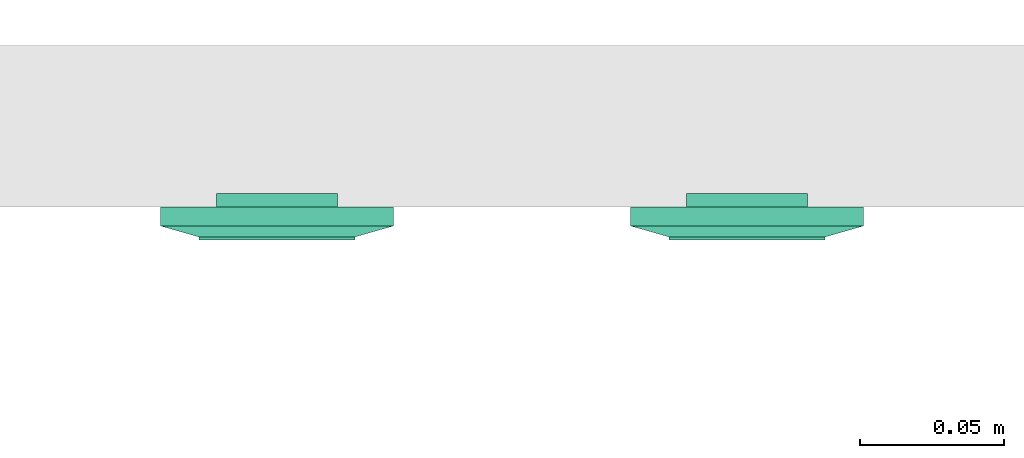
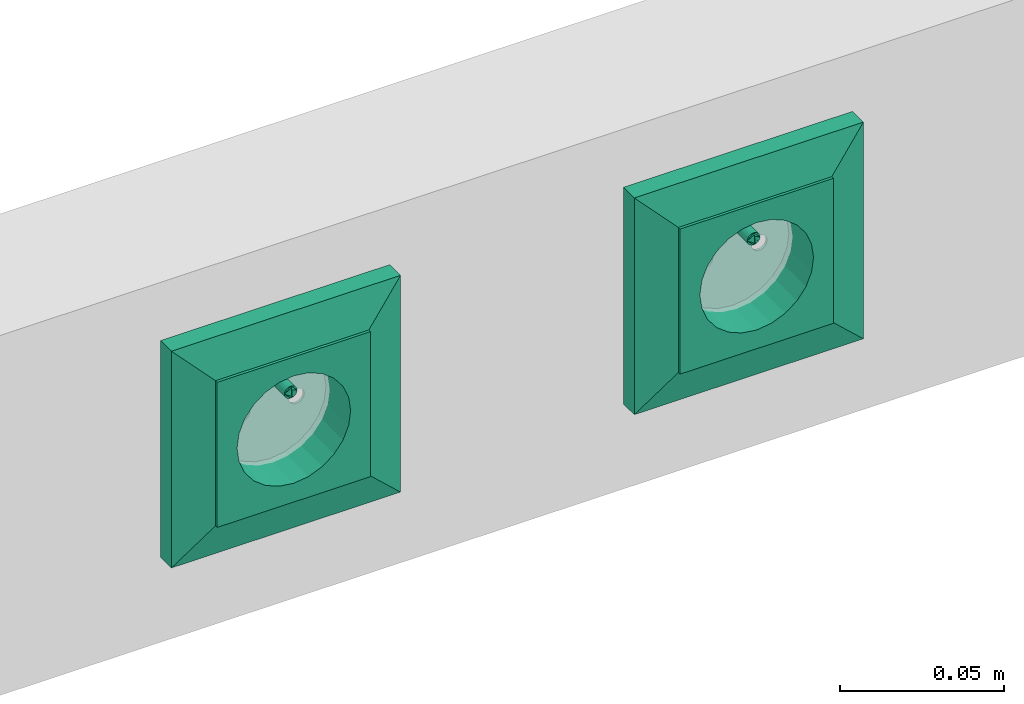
# One storey, part 79 of 166: 2 flow terminals.
"""IFC2X3 building model written with IfcOpenShell, lengths in metres."""

from ifc_helpers import new_model, entity, si_unit, converted_unit, derived_unit, direction, frame, origin, place, context, subcontext, project, spatial, face_set, surface_model, source, transform, mapped, type_object, type_shapes, element, save


model = new_model("IFC2X3")

# Units and contexts
model_context = context("Model", 3, precision=1e-05, world=origin(), true_north=direction((6.12303176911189e-17, 1.0)))
body_context = subcontext(model_context, "Body", "Model", "MODEL_VIEW")
ifc_project = project(units=[si_unit("LENGTHUNIT", "METRE"), si_unit("AREAUNIT", "SQUARE_METRE"), si_unit("VOLUMEUNIT", "CUBIC_METRE"), converted_unit("PLANEANGLEUNIT", "DEGREE", entity("IfcRatioMeasure", 0.0174532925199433), si_unit("PLANEANGLEUNIT", "RADIAN"), dimensions=[0, 0, 0, 0, 0, 0, 0]), si_unit("MASSUNIT", "GRAM", prefix="KILO"), derived_unit("MASSDENSITYUNIT", [(si_unit("MASSUNIT", "GRAM", prefix="KILO"), 1), (si_unit("LENGTHUNIT", "METRE"), -3)]), si_unit("TIMEUNIT", "SECOND"), si_unit("FREQUENCYUNIT", "HERTZ"), si_unit("THERMODYNAMICTEMPERATUREUNIT", "DEGREE_CELSIUS"), derived_unit("THERMALTRANSMITTANCEUNIT", [(si_unit("MASSUNIT", "GRAM", prefix="KILO"), 1), (si_unit("THERMODYNAMICTEMPERATUREUNIT", "KELVIN"), -1), (si_unit("TIMEUNIT", "SECOND"), -3)]), derived_unit("VOLUMETRICFLOWRATEUNIT", [(si_unit("LENGTHUNIT", "METRE"), 3), (si_unit("TIMEUNIT", "SECOND"), -1)]), si_unit("ELECTRICCURRENTUNIT", "AMPERE"), si_unit("ELECTRICVOLTAGEUNIT", "VOLT"), si_unit("POWERUNIT", "WATT"), si_unit("FORCEUNIT", "NEWTON"), si_unit("ILLUMINANCEUNIT", "LUX"), si_unit("LUMINOUSFLUXUNIT", "LUMEN"), si_unit("LUMINOUSINTENSITYUNIT", "CANDELA"), derived_unit("USERDEFINED", [(si_unit("MASSUNIT", "GRAM", prefix="KILO"), -1), (si_unit("LENGTHUNIT", "METRE"), -2), (si_unit("TIMEUNIT", "SECOND"), 3), (si_unit("LUMINOUSFLUXUNIT", "LUMEN"), 1)]), derived_unit("LINEARVELOCITYUNIT", [(si_unit("LENGTHUNIT", "METRE"), 1), (si_unit("TIMEUNIT", "SECOND"), -1)]), si_unit("PRESSUREUNIT", "PASCAL"), derived_unit("USERDEFINED", [(si_unit("LENGTHUNIT", "METRE"), -2), (si_unit("MASSUNIT", "GRAM", prefix="KILO"), 1), (si_unit("TIMEUNIT", "SECOND"), -2)])], contexts=[model_context])

# Site, building, storey
site_placement = place(None, origin())
site = spatial("IfcSite", under=ifc_project, at=site_placement, Name="Default", CompositionType="ELEMENT")
building_placement = place(site_placement, origin())
building = spatial("IfcBuilding", under=site, at=building_placement, CompositionType="ELEMENT")
storey_placement = place(building_placement, frame((0.0, 0.0, 4.27)))
storey = spatial("IfcBuildingStorey", under=building, at=storey_placement, Name="01", CompositionType="ELEMENT", Elevation=4.27)

# Flow terminals
light_fixture_type = type_object("IfcLightFixtureType", Name="IP20 ONDULEE", PredefinedType="NOTDEFINED")
shared_shape = source(origin(), body_context, "Body", "SurfaceModel", [
    surface_model("IfcFaceBasedSurfaceModel", [(-0.00225000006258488, 0.0127499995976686, 0.00949633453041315), (0.0, 0.0104999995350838, 0.00949633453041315), (0.0, 0.0115376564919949, 0.0101656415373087), (0.0, 0.0139623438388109, 0.0101656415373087), (0.0, 0.0144589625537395, 0.00984531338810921), (0.0, 0.0121178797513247, 0.0102778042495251), (0.0, 0.0133821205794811, 0.0102778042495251), (0.0, 0.0127499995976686, 0.010399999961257), (0.0, 0.0149999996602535, 0.00949633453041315), (0.00225000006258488, 0.0127499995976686, 0.00949633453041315), (0.0, 0.0110410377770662, 0.00984531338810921), (0.0, 0.0127499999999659, 0.00949633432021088), (0.00225000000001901, 0.0127499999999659, 0.00949633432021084), (0.00217333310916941, 0.0121676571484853, 0.00949633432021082), (0.00194855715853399, 0.0116249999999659, 0.00949633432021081), (0.00159099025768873, 0.0111590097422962, 0.00949633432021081), (0.001125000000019, 0.010801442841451, 0.00949633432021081), (0.00058234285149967, 0.0105766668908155, 0.00949633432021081), (0.0, 0.0104999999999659, 0.00949633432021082), (-0.000582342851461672, 0.0105766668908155, 0.00949633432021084), (-0.001124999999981, 0.010801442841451, 0.00949633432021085), (-0.00159099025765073, 0.0111590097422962, 0.00949633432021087), (-0.00194855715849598, 0.011624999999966, 0.00949633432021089), (-0.0021733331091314, 0.0121676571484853, 0.00949633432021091), (-0.00224999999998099, 0.012749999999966, 0.00949633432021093), (-0.00217333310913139, 0.0133323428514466, 0.00949633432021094), (-0.00194855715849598, 0.013874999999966, 0.00949633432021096), (-0.00159099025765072, 0.0143409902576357, 0.00949633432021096), (-0.00112499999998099, 0.0146985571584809, 0.00949633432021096), (-0.00058234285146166, 0.0149233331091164, 0.00949633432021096), (0.0, 0.0149999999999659, 0.00949633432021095), (0.000582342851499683, 0.0149233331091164, 0.00949633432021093), (0.00112500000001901, 0.0146985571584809, 0.00949633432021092), (0.00159099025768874, 0.0143409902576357, 0.00949633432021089), (0.001948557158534, 0.0138749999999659, 0.00949633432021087), (0.00217333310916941, 0.0133323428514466, 0.00949633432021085), (0.00225000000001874, 0.0127499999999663, -0.00360000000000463), (0.00217333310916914, 0.0121676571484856, -0.00360000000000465), (0.00194855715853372, 0.0116249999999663, -0.00360000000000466), (0.00159099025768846, 0.0111590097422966, -0.00360000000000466), (0.00112500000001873, 0.0108014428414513, -0.00360000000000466), (0.000582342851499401, 0.0105766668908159, -0.00360000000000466), (0.0, 0.0104999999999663, -0.00360000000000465), (-0.000582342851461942, 0.0105766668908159, -0.00360000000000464), (-0.00112499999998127, 0.0108014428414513, -0.00360000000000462), (-0.001590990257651, 0.0111590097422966, -0.0036000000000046), (-0.00194855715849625, 0.0116249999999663, -0.00360000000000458), (-0.00217333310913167, 0.0121676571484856, -0.00360000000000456), (-0.00224999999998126, 0.0127499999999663, -0.00360000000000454), (-0.00217333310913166, 0.013332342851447, -0.00360000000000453), (-0.00194855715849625, 0.0138749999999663, -0.00360000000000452), (-0.00159099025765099, 0.014340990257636, -0.00360000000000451), (-0.00112499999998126, 0.0146985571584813, -0.00360000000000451), (-0.000582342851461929, 0.0149233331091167, -0.00360000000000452), (0.0, 0.0149999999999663, -0.00360000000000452), (0.000582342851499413, 0.0149233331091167, -0.00360000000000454), (0.00112500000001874, 0.0146985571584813, -0.00360000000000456), (0.00159099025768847, 0.014340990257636, -0.00360000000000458), (0.00194855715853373, 0.0138749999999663, -0.0036000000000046), (0.00217333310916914, 0.013332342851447, -0.00360000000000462), (0.0270000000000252, 0.026999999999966, 0.0113999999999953), (-0.0269999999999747, 0.026999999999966, 0.0113999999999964), (-0.0269999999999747, -0.0270000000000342, 0.0113999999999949), (0.0270000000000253, -0.0270000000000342, 0.0113999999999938), (-0.0199999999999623, 0.0, 0.0113999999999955), (-0.0193185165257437, -0.00517638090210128, 0.0113999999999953), (-0.0173205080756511, -0.0100000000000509, 0.0113999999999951), (-0.0141421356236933, -0.0141421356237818, 0.011399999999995), (-0.00999999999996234, -0.0173205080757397, 0.0113999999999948), (-0.00517638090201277, -0.0193185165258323, 0.0113999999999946), (0.0, -0.0200000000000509, 0.0113999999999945), (0.00517638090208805, -0.0193185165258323, 0.0113999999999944), (0.0100000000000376, -0.0173205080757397, 0.0113999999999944), (0.0141421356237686, -0.0141421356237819, 0.0113999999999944), (0.0173205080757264, -0.010000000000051, 0.0113999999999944), (0.0193185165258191, -0.00517638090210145, 0.0113999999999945), (0.0200000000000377, 0.0, 0.0113999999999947), (0.0193185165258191, 0.00517638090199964, 0.0113999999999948), (0.0173205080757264, 0.0099999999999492, 0.011399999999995), (0.0141421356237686, 0.0141421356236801, 0.0113999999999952), (0.0100000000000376, 0.0173205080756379, 0.0113999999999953), (0.00517638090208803, 0.0193185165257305, 0.0113999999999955), (0.0, 0.0199999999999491, 0.0113999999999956), (-0.00517638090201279, 0.0193185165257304, 0.0113999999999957), (-0.00999999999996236, 0.0173205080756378, 0.0113999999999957), (-0.0141421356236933, 0.01414213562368, 0.0113999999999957), (-0.0173205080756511, 0.00999999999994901, 0.0113999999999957), (-0.0193185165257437, 0.00517638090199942, 0.0113999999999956), (0.0270000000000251, 0.0269999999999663, 0.00199999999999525), (0.0270000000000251, -0.0270000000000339, 0.00199999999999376), (-0.0269999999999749, -0.0270000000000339, 0.00199999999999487), (-0.0269999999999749, 0.0269999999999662, 0.00199999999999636), (0.0210000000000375, 0.0, 0.00199999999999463), (0.0202844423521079, -0.00543519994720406, 0.00199999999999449), (0.0181865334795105, -0.0105000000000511, 0.0019999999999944), (0.0148492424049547, -0.0148492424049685, 0.00199999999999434), (0.0105000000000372, -0.0181865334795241, 0.00199999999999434), (0.0054351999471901, -0.0202844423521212, 0.00199999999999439), (0.0, -0.0210000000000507, 0.00199999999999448), (-0.00543519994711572, -0.020284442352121, 0.00199999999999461), (-0.0104999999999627, -0.0181865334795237, 0.00199999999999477), (-0.0148492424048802, -0.014849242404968, 0.00199999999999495), (-0.0181865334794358, -0.0105000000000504, 0.00199999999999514), (-0.020284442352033, -0.00543519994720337, 0.00199999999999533), (-0.0209999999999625, 0.0, 0.00199999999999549), (-0.0202844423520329, 0.0054351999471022, 0.00199999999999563), (-0.0181865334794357, 0.0104999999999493, 0.00199999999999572), (-0.01484924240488, 0.0148492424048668, 0.00199999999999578), (-0.0104999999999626, 0.0181865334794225, 0.00199999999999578), (-0.00543519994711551, 0.0202844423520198, 0.00199999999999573), (0.0, 0.0209999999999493, 0.00199999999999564), (0.00543519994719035, 0.0202844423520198, 0.00199999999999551), (0.0105000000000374, 0.0181865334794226, 0.00199999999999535), (0.0148492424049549, 0.0148492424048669, 0.00199999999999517), (0.0181865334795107, 0.0104999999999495, 0.00199999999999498), (0.0202844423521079, 0.00543519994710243, 0.00199999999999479), (0.0200000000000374, 0.0, -0.00360000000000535), (0.0193185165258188, -0.00517638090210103, -0.00360000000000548), (0.0173205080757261, -0.0100000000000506, -0.00360000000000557), (0.0141421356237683, -0.0141421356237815, -0.00360000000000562), (0.0100000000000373, -0.0173205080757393, -0.00360000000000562), (0.00517638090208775, -0.0193185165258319, -0.00360000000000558), (0.0, -0.0200000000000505, -0.00360000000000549), (-0.00517638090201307, -0.0193185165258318, -0.00360000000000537), (-0.00999999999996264, -0.0173205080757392, -0.00360000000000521), (-0.0141421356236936, -0.0141421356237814, -0.00360000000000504), (-0.0173205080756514, -0.0100000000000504, -0.00360000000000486), (-0.019318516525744, -0.00517638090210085, -0.00360000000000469), (-0.0199999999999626, 0.0, -0.00360000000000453), (-0.0193185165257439, 0.00517638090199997, -0.0036000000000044), (-0.0173205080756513, 0.00999999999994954, -0.00360000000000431), (-0.0141421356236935, 0.0141421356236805, -0.00360000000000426), (-0.00999999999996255, 0.0173205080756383, -0.00360000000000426), (-0.00517638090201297, 0.0193185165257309, -0.0036000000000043), (0.0, 0.0199999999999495, -0.00360000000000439), (0.00517638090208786, 0.0193185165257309, -0.00360000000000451), (0.0100000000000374, 0.0173205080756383, -0.00360000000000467), (0.0141421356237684, 0.0141421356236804, -0.00360000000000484), (0.0173205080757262, 0.0099999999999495, -0.00360000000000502), (0.0193185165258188, 0.00517638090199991, -0.00360000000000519), (-0.0123499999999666, 0.0, -0.00360000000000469), (-0.0122562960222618, -0.000711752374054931, -0.00360000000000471), (-0.0119815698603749, -0.00137500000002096, -0.00360000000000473), (-0.0115445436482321, -0.00194454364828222, -0.00360000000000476), (-0.0109749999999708, -0.00238156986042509, -0.00360000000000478), (-0.0103117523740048, -0.00265629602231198, -0.0036000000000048), (-0.00959999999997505, -0.00275000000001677, -0.00360000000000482), (-0.0088882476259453, -0.00265629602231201, -0.00360000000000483), (-0.00822499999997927, -0.00238156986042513, -0.00360000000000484), (-0.00765545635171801, -0.00194454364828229, -0.00360000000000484), (-0.00721843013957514, -0.00137500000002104, -0.00360000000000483), (-0.00694370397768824, -0.000711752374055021, -0.00360000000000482), (-0.00684999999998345, 0.0, -0.0036000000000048), (-0.00694370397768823, 0.000711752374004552, -0.00360000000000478), (-0.00721843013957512, 0.00137499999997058, -0.00360000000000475), (-0.00765545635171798, 0.00194454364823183, -0.00360000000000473), (-0.00822499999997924, 0.00238156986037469, -0.0036000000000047), (-0.00888824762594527, 0.00265629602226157, -0.00360000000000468), (-0.00959999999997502, 0.00274999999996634, -0.00360000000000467), (-0.0103117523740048, 0.00265629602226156, -0.00360000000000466), (-0.0109749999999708, 0.00238156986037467, -0.00360000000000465), (-0.011544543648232, 0.00194454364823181, -0.00360000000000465), (-0.0119815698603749, 0.00137499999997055, -0.00360000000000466), (-0.0122562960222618, 0.000711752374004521, -0.00360000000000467), (0.00685000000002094, 0.0, -0.00360000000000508), (0.0069437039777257, -0.00071175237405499, -0.0036000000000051), (0.00721843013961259, -0.00137500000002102, -0.00360000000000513), (0.00765545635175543, -0.00194454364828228, -0.00360000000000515), (0.00822500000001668, -0.00238156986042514, -0.00360000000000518), (0.00888824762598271, -0.00265629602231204, -0.0036000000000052), (0.00960000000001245, -0.00275000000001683, -0.00360000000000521), (0.0103117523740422, -0.00265629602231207, -0.00360000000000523), (0.0109750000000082, -0.00238156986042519, -0.00360000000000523), (0.0115445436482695, -0.00194454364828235, -0.00360000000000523), (0.0119815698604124, -0.0013750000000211, -0.00360000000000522), (0.0122562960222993, -0.00071175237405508, -0.00360000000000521), (0.012350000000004, 0.0, -0.00360000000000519), (0.0122562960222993, 0.000711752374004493, -0.00360000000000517), (0.0119815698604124, 0.00137499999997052, -0.00360000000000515), (0.0115445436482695, 0.00194454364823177, -0.00360000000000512), (0.0109750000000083, 0.00238156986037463, -0.0036000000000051), (0.0103117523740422, 0.00265629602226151, -0.00360000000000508), (0.00960000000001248, 0.00274999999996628, -0.00360000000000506), (0.00888824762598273, 0.0026562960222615, -0.00360000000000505), (0.0082250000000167, 0.00238156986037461, -0.00360000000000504), (0.00765545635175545, 0.00194454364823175, -0.00360000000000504), (0.0072184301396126, 0.00137499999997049, -0.00360000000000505), (0.00694370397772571, 0.000711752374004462, -0.00360000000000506), (0.0210000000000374, 0.0, -0.00460000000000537), (0.0202844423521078, -0.00543519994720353, -0.00460000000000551), (0.0181865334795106, -0.0105000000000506, -0.0046000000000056), (0.0148492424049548, -0.0148492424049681, -0.00460000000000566), (0.0105000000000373, -0.0181865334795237, -0.00460000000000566), (0.00543519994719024, -0.0202844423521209, -0.00460000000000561), (0.0, -0.0210000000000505, -0.00460000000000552), (-0.00543519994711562, -0.0202844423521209, -0.00460000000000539), (-0.0104999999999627, -0.0181865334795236, -0.00460000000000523), (-0.0148492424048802, -0.0148492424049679, -0.00460000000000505), (-0.0181865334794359, -0.0105000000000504, -0.00460000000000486), (-0.0202844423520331, -0.00543519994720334, -0.00460000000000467), (-0.0209999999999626, 0.0, -0.00460000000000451), (-0.020284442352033, 0.00543519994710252, -0.00460000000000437), (-0.0181865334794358, 0.0104999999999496, -0.00460000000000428), (-0.0148492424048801, 0.0148492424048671, -0.00460000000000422), (-0.0104999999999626, 0.0181865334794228, -0.00460000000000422), (-0.00543519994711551, 0.02028444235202, -0.00460000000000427), (0.0, 0.0209999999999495, -0.00460000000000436), (0.00543519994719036, 0.02028444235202, -0.00460000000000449), (0.0105000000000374, 0.0181865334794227, -0.00460000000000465), (0.0148492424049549, 0.014849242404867, -0.00460000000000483), (0.0181865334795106, 0.0104999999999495, -0.00460000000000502), (0.0202844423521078, 0.00543519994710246, -0.00460000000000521), (-0.00684999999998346, 0.0, -0.0046000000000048), (-0.00694370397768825, 0.000711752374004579, -0.00460000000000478), (-0.00721843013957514, 0.00137499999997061, -0.00460000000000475), (-0.007655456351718, 0.00194454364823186, -0.00460000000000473), (-0.00822499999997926, 0.00238156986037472, -0.0046000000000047), (-0.00888824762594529, 0.0026562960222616, -0.00460000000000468), (-0.00959999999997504, 0.00274999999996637, -0.00460000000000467), (-0.0103117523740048, 0.00265629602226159, -0.00460000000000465), (-0.0109749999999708, 0.0023815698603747, -0.00460000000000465), (-0.0115445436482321, 0.00194454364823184, -0.00460000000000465), (-0.0119815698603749, 0.00137499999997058, -0.00460000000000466), (-0.0122562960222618, 0.000711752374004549, -0.00460000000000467), (-0.0123499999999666, 0.0, -0.00460000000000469), (-0.0122562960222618, -0.000711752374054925, -0.00460000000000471), (-0.0119815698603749, -0.00137500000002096, -0.00460000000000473), (-0.0115445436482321, -0.00194454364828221, -0.00460000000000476), (-0.0109749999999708, -0.00238156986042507, -0.00460000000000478), (-0.0103117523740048, -0.00265629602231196, -0.0046000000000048), (-0.00959999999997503, -0.00275000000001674, -0.00460000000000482), (-0.00888824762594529, -0.00265629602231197, -0.00460000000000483), (-0.00822499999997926, -0.00238156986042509, -0.00460000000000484), (-0.007655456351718, -0.00194454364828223, -0.00460000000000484), (-0.00721843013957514, -0.00137500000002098, -0.00460000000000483), (-0.00694370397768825, -0.000711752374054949, -0.00460000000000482), (0.012350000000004, 0.0, -0.00460000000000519), (0.0122562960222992, 0.000711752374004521, -0.00460000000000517), (0.0119815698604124, 0.00137499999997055, -0.00460000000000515), (0.0115445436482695, 0.0019445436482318, -0.00460000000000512), (0.0109750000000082, 0.00238156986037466, -0.0046000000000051), (0.0103117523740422, 0.00265629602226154, -0.00460000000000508), (0.00960000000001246, 0.00274999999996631, -0.00460000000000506), (0.00888824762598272, 0.00265629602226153, -0.00460000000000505), (0.00822500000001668, 0.00238156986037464, -0.00460000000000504), (0.00765545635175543, 0.00194454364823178, -0.00460000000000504), (0.00721843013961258, 0.00137499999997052, -0.00460000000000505), (0.00694370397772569, 0.00071175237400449, -0.00460000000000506), (0.00685000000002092, 0.0, -0.00460000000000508), (0.00694370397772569, -0.000711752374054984, -0.0046000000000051), (0.00721843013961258, -0.00137500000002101, -0.00460000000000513), (0.00765545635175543, -0.00194454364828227, -0.00460000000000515), (0.00822500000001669, -0.00238156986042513, -0.00460000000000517), (0.00888824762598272, -0.00265629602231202, -0.0046000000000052), (0.00960000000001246, -0.0027500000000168, -0.00460000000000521), (0.0103117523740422, -0.00265629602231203, -0.00460000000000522), (0.0109750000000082, -0.00238156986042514, -0.00460000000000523), (0.0115445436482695, -0.00194454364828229, -0.00460000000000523), (0.0119815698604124, -0.00137500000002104, -0.00460000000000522), (0.0122562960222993, -0.000711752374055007, -0.00460000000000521), (0.040350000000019, 0.0403499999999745, 0.00659999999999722), (0.040350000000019, -0.0403500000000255, 0.00659999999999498), (-0.0403499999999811, -0.0403500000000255, 0.00659999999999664), (-0.0403499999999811, 0.0403499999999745, 0.00659999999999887), (0.027000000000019, 0.0269999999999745, 0.00659999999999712), (-0.0269999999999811, 0.0269999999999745, 0.00659999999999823), (-0.026999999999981, -0.0270000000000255, 0.00659999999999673), (0.027000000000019, -0.0270000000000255, 0.00659999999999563), (0.027000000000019, 0.0269999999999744, 0.0103999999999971), (-0.026999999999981, 0.0269999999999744, 0.0103999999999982), (-0.026999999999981, -0.0270000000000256, 0.0103999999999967), (0.027000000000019, -0.0270000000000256, 0.0103999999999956), (0.040350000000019, 0.0403499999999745, 0.00659999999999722), (0.040350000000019, -0.0403500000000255, 0.00659999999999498), (-0.0403499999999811, -0.0403500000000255, 0.00659999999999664), (-0.0403499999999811, 0.0403499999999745, 0.00659999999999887), (-0.0269999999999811, 0.0269999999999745, 0.00659999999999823), (-0.0269999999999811, -0.0270000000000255, 0.00659999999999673), (0.0270000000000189, -0.0270000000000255, 0.00659999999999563), (0.0270000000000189, 0.0269999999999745, 0.00659999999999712), (0.0403500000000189, 0.0403499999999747, 0.0), (0.0403500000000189, -0.0403500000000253, 0.0), (-0.0403499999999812, -0.0403500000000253, 0.0), (-0.0403499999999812, 0.0403499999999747, 0.0), (0.0270000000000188, 0.0269999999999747, 0.0), (-0.0269999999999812, 0.0269999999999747, 0.0), (-0.0269999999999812, -0.0270000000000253, 0.0), (0.0270000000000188, -0.0270000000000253, 0.0)], [face_set([[[0, 1, 2]], [[3, 4, 2, 5]], [[6, 3, 5, 7]], [[2, 4, 0]], [[4, 8, 0]], [[3, 9, 8]], [[1, 9, 10]], [[2, 3, 6, 7]], [[3, 10, 9]], [[2, 10, 3]], [[11, 1, 0, 8]], [[11, 8, 9, 1]]]), face_set([[[12, 13, 14, 15, 16, 17, 18, 19, 20, 21, 22, 23, 24, 25, 26, 27, 28, 29, 30, 31, 32, 33, 34, 35]], [[36, 37, 38, 39, 40, 41, 42, 43, 44, 45, 46, 47, 48, 49, 50, 51, 52, 53, 54, 55, 56, 57, 58, 59]], [[48, 47, 23, 24]], [[47, 46, 22, 23]], [[45, 44, 20, 21]], [[46, 45, 21, 22]], [[44, 43, 19, 20]], [[18, 19, 43, 42]], [[42, 41, 17, 18]], [[41, 40, 16, 17]], [[39, 38, 14, 15]], [[40, 39, 15, 16]], [[38, 37, 13, 14]], [[12, 13, 37, 36]], [[36, 59, 35, 12]], [[59, 58, 34, 35]], [[57, 56, 32, 33]], [[58, 57, 33, 34]], [[56, 55, 31, 32]], [[30, 31, 55, 54]], [[54, 53, 29, 30]], [[53, 52, 28, 29]], [[51, 50, 26, 27]], [[52, 51, 27, 28]], [[50, 49, 25, 26]], [[24, 25, 49, 48]]]), face_set([[[60, 61, 62, 63], [64, 65, 66, 67, 68, 69, 70, 71, 72, 73, 74, 75, 76, 77, 78, 79, 80, 81, 82, 83, 84, 85, 86, 87]], [[88, 89, 90, 91], [92, 93, 94, 95, 96, 97, 98, 99, 100, 101, 102, 103, 104, 105, 106, 107, 108, 109, 110, 111, 112, 113, 114, 115]], [[61, 60, 88, 91]], [[62, 61, 91, 90]], [[63, 62, 90, 89]], [[60, 63, 89, 88]], [[116, 117, 118, 119, 120, 121, 122, 123, 124, 125, 126, 127, 128, 129, 130, 131, 132, 133, 134, 135, 136, 137, 138, 139], [140, 141, 142, 143, 144, 145, 146, 147, 148, 149, 150, 151, 152, 153, 154, 155, 156, 157, 158, 159, 160, 161, 162, 163], [164, 165, 166, 167, 168, 169, 170, 171, 172, 173, 174, 175, 176, 177, 178, 179, 180, 181, 182, 183, 184, 185, 186, 187]], [[64, 128, 127, 65]], [[65, 127, 126, 66]], [[67, 125, 124, 68]], [[66, 126, 125, 67]], [[68, 124, 123, 69]], [[122, 70, 69, 123]], [[70, 122, 121, 71]], [[71, 121, 120, 72]], [[73, 119, 118, 74]], [[72, 120, 119, 73]], [[74, 118, 117, 75]], [[116, 76, 75, 117]], [[76, 116, 139, 77]], [[77, 139, 138, 78]], [[79, 137, 136, 80]], [[78, 138, 137, 79]], [[80, 136, 135, 81]], [[134, 82, 81, 135]], [[82, 134, 133, 83]], [[83, 133, 132, 84]], [[84, 132, 131, 85]], [[85, 131, 130, 86]], [[130, 129, 87, 86]], [[64, 87, 129, 128]], [[188, 189, 190, 191, 192, 193, 194, 195, 196, 197, 198, 199, 200, 201, 202, 203, 204, 205, 206, 207, 208, 209, 210, 211], [212, 213, 214, 215, 216, 217, 218, 219, 220, 221, 222, 223, 224, 225, 226, 227, 228, 229, 230, 231, 232, 233, 234, 235], [236, 237, 238, 239, 240, 241, 242, 243, 244, 245, 246, 247, 248, 249, 250, 251, 252, 253, 254, 255, 256, 257, 258, 259]], [[200, 199, 103, 104]], [[199, 198, 102, 103]], [[197, 196, 100, 101]], [[198, 197, 101, 102]], [[196, 195, 99, 100]], [[98, 99, 195, 194]], [[194, 193, 97, 98]], [[193, 192, 96, 97]], [[191, 190, 94, 95]], [[192, 191, 95, 96]], [[190, 189, 93, 94]], [[92, 93, 189, 188]], [[188, 211, 115, 92]], [[211, 210, 114, 115]], [[209, 208, 112, 113]], [[210, 209, 113, 114]], [[208, 207, 111, 112]], [[110, 111, 207, 206]], [[206, 205, 109, 110]], [[205, 204, 108, 109]], [[203, 202, 106, 107]], [[204, 203, 107, 108]], [[202, 201, 105, 106]], [[104, 105, 201, 200]], [[141, 225, 226, 142]], [[140, 224, 225, 141]], [[144, 228, 229, 145]], [[143, 227, 228, 144]], [[142, 226, 227, 143]], [[230, 146, 145, 229]], [[149, 233, 232, 148]], [[148, 232, 231, 147]], [[152, 212, 235, 151]], [[151, 235, 234, 150]], [[150, 234, 233, 149]], [[146, 230, 231, 147]], [[154, 214, 213, 153]], [[153, 213, 212, 152]], [[157, 217, 216, 156]], [[156, 216, 215, 155]], [[155, 215, 214, 154]], [[218, 158, 157, 217]], [[160, 220, 221, 161]], [[159, 219, 220, 160]], [[163, 223, 224, 140]], [[162, 222, 223, 163]], [[161, 221, 222, 162]], [[158, 218, 219, 159]], [[166, 250, 249, 165]], [[165, 249, 248, 164]], [[169, 253, 252, 168]], [[168, 252, 251, 167]], [[167, 251, 250, 166]], [[254, 170, 169, 253]], [[172, 256, 257, 173]], [[171, 255, 256, 172]], [[175, 259, 236, 176]], [[174, 258, 259, 175]], [[173, 257, 258, 174]], [[170, 254, 255, 171]], [[177, 237, 238, 178]], [[176, 236, 237, 177]], [[180, 240, 241, 181]], [[179, 239, 240, 180]], [[178, 238, 239, 179]], [[242, 182, 181, 241]], [[185, 245, 244, 184]], [[184, 244, 243, 183]], [[164, 248, 247, 187]], [[187, 247, 246, 186]], [[186, 246, 245, 185]], [[182, 242, 243, 183]]]), face_set([[[260, 261, 262, 263], [264, 265, 266, 267]], [[260, 268, 269, 263]], [[263, 269, 270, 262]], [[262, 270, 271, 261]], [[261, 271, 268, 260]], [[264, 265, 269, 268]], [[265, 266, 270, 269]], [[266, 267, 271, 270]], [[268, 271, 267, 264]]]), face_set([[[272, 273, 274, 275], [276, 277, 278, 279]], [[280, 281, 282, 283], [284, 285, 286, 287]], [[275, 272, 280, 283]], [[274, 275, 283, 282]], [[273, 274, 282, 281]], [[272, 273, 281, 280]], [[284, 285, 276, 279]], [[285, 286, 277, 276]], [[286, 287, 278, 277]], [[279, 278, 287, 284]]])]),
])
type_shapes(light_fixture_type, [shared_shape])
for number, where, z_axis, x_axis in (
    (1, (47.3065582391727, -189.956744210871, 4.70800000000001), (0.0, -1.0, 0.0), (1.0, 0.0, 0.0)),
    (2, (47.4695582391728, -189.956744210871, 4.70800000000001), (0.0, -1.0, 0.0), (1.0, 0.0, 0.0)),
):
    element("IfcFlowTerminal", number, at=place(building_placement, frame(where, z_axis=z_axis, x_axis=x_axis)), inside=storey, type_object=light_fixture_type, Name="INT Prise de courant:IP20 ONDULEE", ObjectType="INT Prise de courant:IP20 ONDULEE", context=body_context, shape_type="MappedRepresentation", body=[
        mapped(shared_shape, transform((0.0, 0.0, 0.0), scale=1.0)),
    ])

save(model, "model.ifc")
